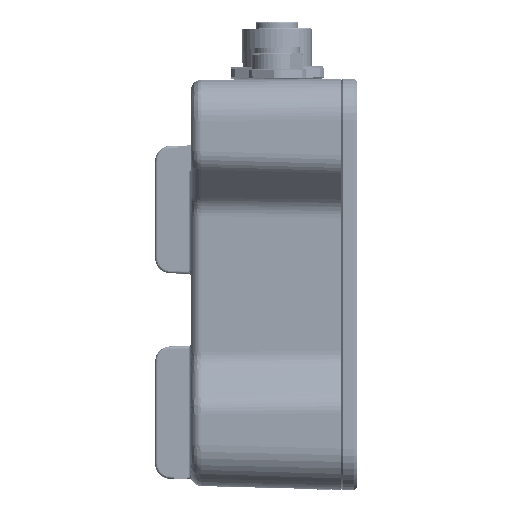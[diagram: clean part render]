
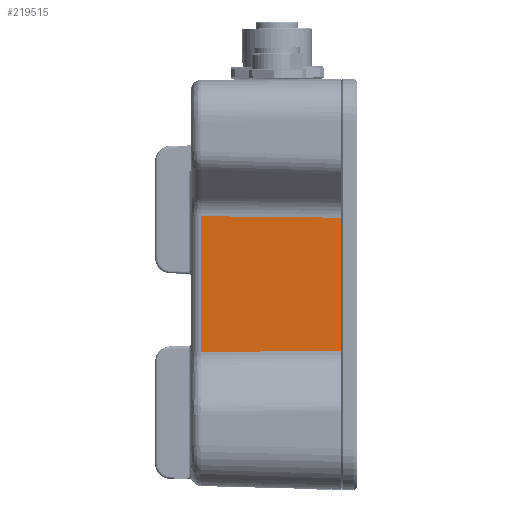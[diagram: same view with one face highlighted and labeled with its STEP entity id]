
A CAD part, left-side view. The second image highlights one B-rep face of the part: STEP entity #219515.
In plain terms, the highlighted planar face has unit normal (-1, 0.026, 0).
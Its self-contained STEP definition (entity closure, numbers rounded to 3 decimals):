
#2067 = LINE ( 'NONE', #60758, #203952 ) ;
#11825 = PLANE ( 'NONE',  #55913 ) ;
#21514 = ORIENTED_EDGE ( 'NONE', *, *, #172694, .T. ) ;
#23099 = CARTESIAN_POINT ( 'NONE',  ( -89.285, 30.302, 13.226 ) ) ;
#23639 = CARTESIAN_POINT ( 'NONE',  ( -89.285, 30.302, -13.247 ) ) ;
#31070 = VERTEX_POINT ( 'NONE', #149259 ) ;
#48602 = ORIENTED_EDGE ( 'NONE', *, *, #248231, .T. ) ;
#55913 = AXIS2_PLACEMENT_3D ( 'NONE', #126184, #151265, #149882 ) ;
#59243 = FACE_OUTER_BOUND ( 'NONE', #164236, .T. ) ;
#60758 = CARTESIAN_POINT ( 'NONE',  ( -89.999, 3.022, -12.93 ) ) ;
#60992 = VERTEX_POINT ( 'NONE', #189862 ) ;
#101135 = VECTOR ( 'NONE', #129732, 1000. ) ;
#104005 = CARTESIAN_POINT ( 'NONE',  ( -90., 3., 12.93 ) ) ;
#120038 = CARTESIAN_POINT ( 'NONE',  ( -90., 3., 15. ) ) ;
#126184 = CARTESIAN_POINT ( 'NONE',  ( -90., 3., 15. ) ) ;
#129732 = DIRECTION ( 'NONE',  ( 0., 0., -1. ) ) ;
#143752 = LINE ( 'NONE', #120038, #240045 ) ;
#149259 = CARTESIAN_POINT ( 'NONE',  ( -90., 3., -12.93 ) ) ;
#149882 = DIRECTION ( 'NONE',  ( 0.026, 1., 0. ) ) ;
#151265 = DIRECTION ( 'NONE',  ( -1., 0.026, 0. ) ) ;
#152473 = LINE ( 'NONE', #176105, #196056 ) ;
#164236 = EDGE_LOOP ( 'NONE', ( #21514, #230087, #48602, #206987 ) ) ;
#166571 = EDGE_CURVE ( 'NONE', #31070, #242036, #143752, .T. ) ;
#172694 = EDGE_CURVE ( 'NONE', #242036, #256597, #152473, .T. ) ;
#176105 = CARTESIAN_POINT ( 'NONE',  ( -89.233, 32.272, 13.247 ) ) ;
#189862 = CARTESIAN_POINT ( 'NONE',  ( -89.285, 30.302, -13.226 ) ) ;
#192489 = LINE ( 'NONE', #23639, #101135 ) ;
#196056 = VECTOR ( 'NONE', #240208, 1000. ) ;
#203952 = VECTOR ( 'NONE', #257425, 1000. ) ;
#206987 = ORIENTED_EDGE ( 'NONE', *, *, #166571, .T. ) ;
#219515 = ADVANCED_FACE ( 'NONE', ( #59243 ), #11825, .T. ) ;
#230087 = ORIENTED_EDGE ( 'NONE', *, *, #247500, .T. ) ;
#231579 = DIRECTION ( 'NONE',  ( 0., 0., 1. ) ) ;
#240045 = VECTOR ( 'NONE', #231579, 1000. ) ;
#240208 = DIRECTION ( 'NONE',  ( 0.026, 1., 0.011 ) ) ;
#242036 = VERTEX_POINT ( 'NONE', #104005 ) ;
#247500 = EDGE_CURVE ( 'NONE', #256597, #60992, #192489, .T. ) ;
#248231 = EDGE_CURVE ( 'NONE', #60992, #31070, #2067, .T. ) ;
#256597 = VERTEX_POINT ( 'NONE', #23099 ) ;
#257425 = DIRECTION ( 'NONE',  ( -0.026, -1., 0.011 ) ) ;
